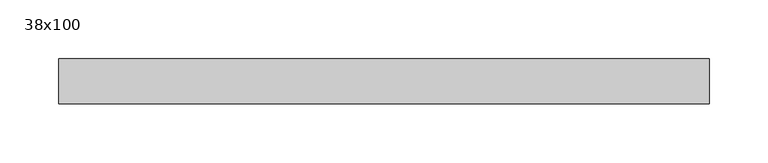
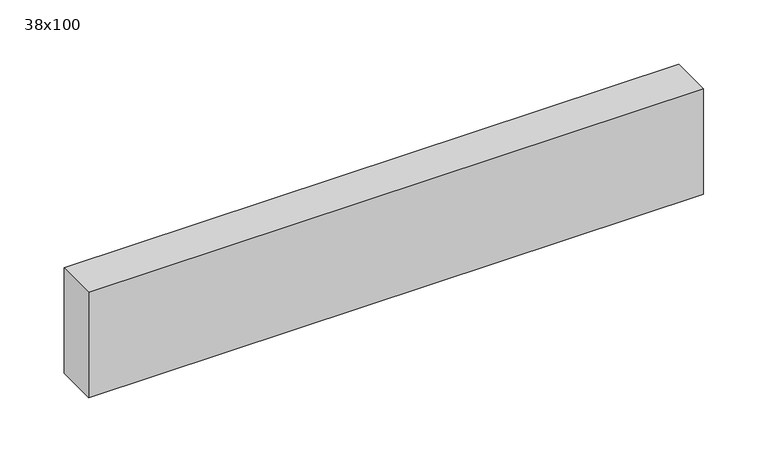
"""IFC4 building model written with IfcOpenShell, lengths in millimetres: beam geometry, Poutre - Bois de construction de dimensions courantes : 38x100."""

from ifc_helpers import new_model, si_unit, frame, origin, place, context, project, spatial, polyline, outline, extrude, source, transform, mapped, element, save


def beam_38x100_b0371d98(model_context):
    return source(origin(), model_context, "Body", "SweptSolid", [
        extrude(outline(polyline([(269.0, 19.05), (269.0, -19.05), (-283.0, -19.05), (-283.0, 19.05), (269.0, 19.05)])), frame((0.0, 0.0, -50.0), z_axis=(0.0, 0.0, 1.0), x_axis=(1.0, 0.0, 0.0)), (0.0, 0.0, 1.0), 100.0),
    ])


if __name__ == "__main__":
    model = new_model("IFC4")
    model_context = context("Model", 3, world=origin())
    ifc_project = project(units=[si_unit("LENGTHUNIT", "METRE", prefix="MILLI")], contexts=[model_context])
    site = spatial("IfcSite", under=ifc_project)
    building = spatial("IfcBuilding", under=site)
    placement = place(None, origin())
    beam_38x100_shape = beam_38x100_b0371d98(model_context)
    element("IfcBeam", 1, ObjectType="Poutre - Bois de construction de dimensions courantes : 38x100", at=placement, inside=building, context=model_context, shape_type="MappedRepresentation", body=[
        mapped(beam_38x100_shape, transform((0.0, 0.0, 0.0), x_axis=(1.0, 0.0, 0.0), y_axis=(0.0, 1.0, 0.0), z_axis=(0.0, 0.0, 1.0))),
    ])
    save(model, "model.ifc")
